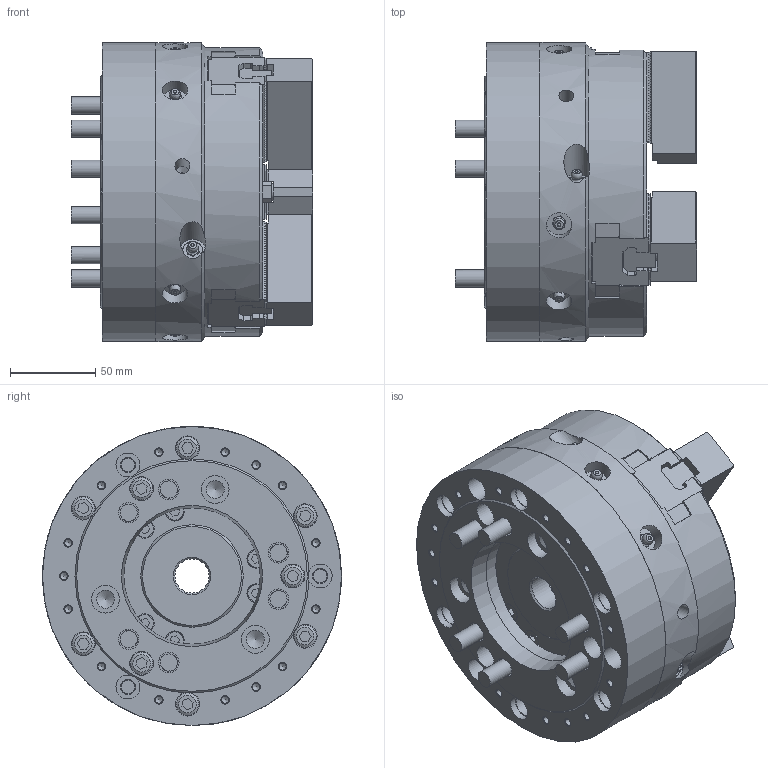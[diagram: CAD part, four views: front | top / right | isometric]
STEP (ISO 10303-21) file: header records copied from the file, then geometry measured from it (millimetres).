
FILE_DESCRIPTION (( 'STEP AP214' ), '1' );
FILE_NAME ('HOH-206_OC.STEP', '2020-03-05T02:23:08', ( '' ), ( '' ), 'SwSTEP 2.0', 'SolidWorks 2017', '' );
FILE_SCHEMA (( 'AUTOMOTIVE_DESIGN' ));
Length unit declared in the file: millimetre
Products named in the file (18): B傾僫僣僉 M10亊250_~25; 61P447483_TNUT_蹬怮椔; B傾僫僣僉 M10亊250_~25_棉太倌TI佱UA; 61P447483_TNUT; HOH-206_OC; 61P319805_SOFT JAW; Part1^61P214934_HOH-206_ASSY; 61P319805_SOFT JAW_蹬怮椔; Part1^61P214934_HOH-206_ASSY_蹬怮椔
Assembly tree (13 placements, depth 2):
  B傾僫僣僉 M10亊250_~25
  B傾僫僣僉 M10亊250_~25
  B傾僫僣僉 M10亊250_~25
  61P447483_TNUT
  B傾僫僣僉 M10亊250_~25
Bounding box: 141.2 x 175 x 175 mm (x, y, z)
Volume: 2060697.8 mm3; surface area: 244694.4 mm2
Topology: 13 solids, 28 shells, 2680 faces, 7514 edges, 4965 vertices
Faces by surface type: plane 2205, cylinder 297, cone 139, torus 21, sphere 18
Full cylindrical faces by diameter (mm): 2 x9, 4.2 x15, 8 x9, 8.5 x6, 8.8 x3, 9 x9, 10 x15, 10.072 x3, 10.176 x3, 11 x6, 11.5 x3, 12 x9, 13 x9, 14 x12, 15 x9, 16 x12, 16.28 x3, 17 x12, 20 x1, 45 x1, 46.893 x1, 47.421 x1, 79.8 x1, 169 x1, 171 x1, 175 x2
Entity records: 65223 total; most frequent: CARTESIAN_POINT 13471, ORIENTED_EDGE 10742, DIRECTION 10155, EDGE_CURVE 5371, LINE 4123, VECTOR 4123, VERTEX_POINT 3648, AXIS2_PLACEMENT_3D 3016
